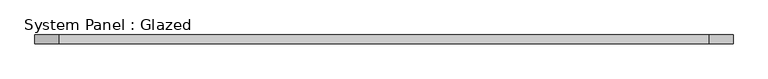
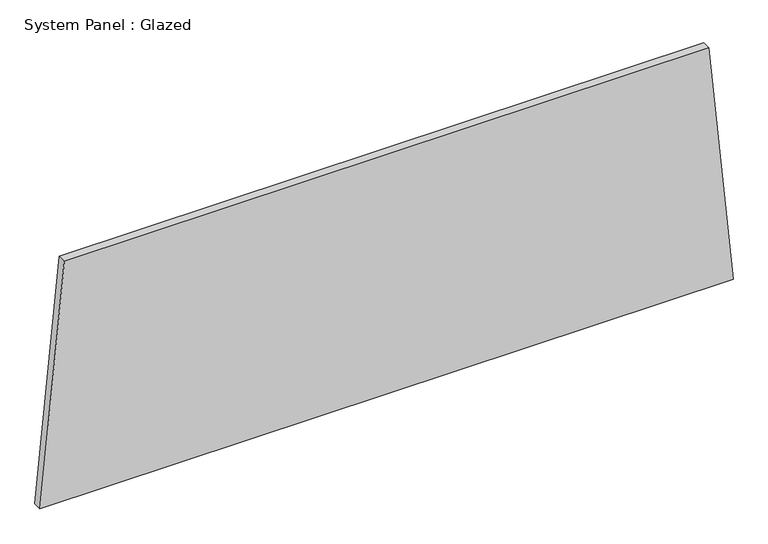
"""IFC4 building model written with IfcOpenShell, lengths in millimetres: plate geometry, System Panel : Glazed."""

from ifc_helpers import new_model, si_unit, frame, origin, place, context, project, spatial, polyline, outline, extrude, source, transform, mapped, element, save


def system_panel_glazed_044c179b(model_context):
    return source(origin(), model_context, "Body", "SweptSolid", [
        extrude(outline(polyline([(0.0, -1004.2014322), (0.0, 1004.2014322), (733.1174891, 933.8699237), (733.1174891, -933.8699237), (0.0, -1004.2014322)])), frame((0.0, -44.45, 0.0), z_axis=(0.0, 1.0, 0.0), x_axis=(0.0, 0.0, 1.0)), (0.0, 0.0, 1.0), 25.4),
    ])


if __name__ == "__main__":
    model = new_model("IFC4")
    model_context = context("Model", 3, world=origin())
    ifc_project = project(units=[si_unit("LENGTHUNIT", "METRE", prefix="MILLI")], contexts=[model_context])
    site = spatial("IfcSite", under=ifc_project)
    building = spatial("IfcBuilding", under=site)
    placement = place(None, origin())
    system_panel_glazed_shape = system_panel_glazed_044c179b(model_context)
    element("IfcPlate", 1, ObjectType="System Panel : Glazed", at=placement, inside=building, context=model_context, shape_type="MappedRepresentation", body=[
        mapped(system_panel_glazed_shape, transform((0.0, 0.0, 0.0), x_axis=(1.0, 0.0, 0.0), y_axis=(0.0, 1.0, 0.0), z_axis=(0.0, 0.0, 1.0))),
    ])
    save(model, "model.ifc")
